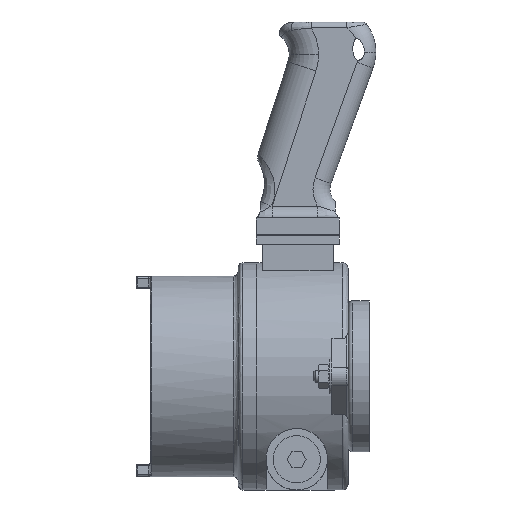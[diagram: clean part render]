
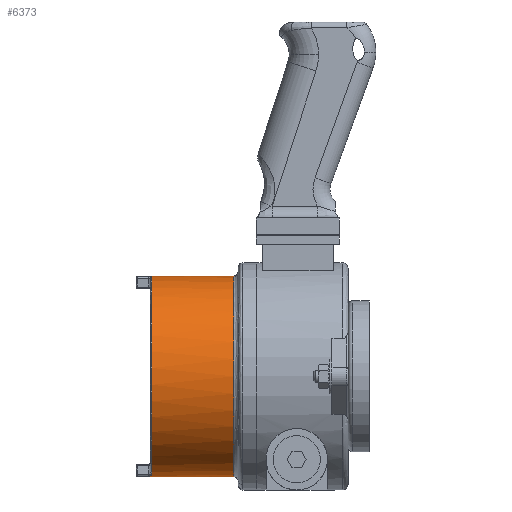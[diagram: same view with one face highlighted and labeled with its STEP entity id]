
A CAD part, left-side view. The second image highlights one B-rep face of the part: STEP entity #6373.
In plain terms, the highlighted cylindrical face has radius 53.975 mm (diameter 107.95 mm), a partial arc.
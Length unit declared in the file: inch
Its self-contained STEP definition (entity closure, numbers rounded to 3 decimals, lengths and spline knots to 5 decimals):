
#8 = CARTESIAN_POINT ( 'NONE',  ( 0., 4.1575, 0. ) ) ;
#29 = CARTESIAN_POINT ( 'NONE',  ( -0.3038, 4.1575, 2.10319 ) ) ;
#41 = VERTEX_POINT ( 'NONE', #465 ) ;
#339 = ORIENTED_EDGE ( 'NONE', *, *, #1502, .T. ) ;
#340 = DIRECTION ( 'NONE',  ( 0., -1., 0. ) ) ;
#343 = CARTESIAN_POINT ( 'NONE',  ( 0., 1.9375, -2.125 ) ) ;
#458 = EDGE_LOOP ( 'NONE', ( #16596, #5654, #5050, #13829, #5868, #8903, #339, #16389, #7605, #9879 ) ) ;
#465 = CARTESIAN_POINT ( 'NONE',  ( 0., 2.425, -2.125 ) ) ;
#1070 = CARTESIAN_POINT ( 'NONE',  ( 0., 2.425, 2.125 ) ) ;
#1231 = VERTEX_POINT ( 'NONE', #10548 ) ;
#1373 = CARTESIAN_POINT ( 'NONE',  ( -0.25136, 4.20947, 2.11008 ) ) ;
#1402 = VERTEX_POINT ( 'NONE', #3722 ) ;
#1404 = DIRECTION ( 'NONE',  ( 0., 0., -1. ) ) ;
#1502 = EDGE_CURVE ( 'NONE', #3231, #1231, #4377, .T. ) ;
#1732 = LINE ( 'NONE', #343, #11992 ) ;
#2359 = VERTEX_POINT ( 'NONE', #3473 ) ;
#2534 = FACE_OUTER_BOUND ( 'NONE', #458, .T. ) ;
#3231 = VERTEX_POINT ( 'NONE', #15189 ) ;
#3422 = CARTESIAN_POINT ( 'NONE',  ( -0.28145, 4.16501, -2.10629 ) ) ;
#3473 = CARTESIAN_POINT ( 'NONE',  ( -0.25135, 4.4575, 2.11008 ) ) ;
#3538 = EDGE_CURVE ( 'NONE', #1231, #17500, #16803, .T. ) ;
#3722 = CARTESIAN_POINT ( 'NONE',  ( -0.31176, 4.1575, -2.10201 ) ) ;
#3936 = AXIS2_PLACEMENT_3D ( 'NONE', #9090, #13306, #4980 ) ;
#3958 = DIRECTION ( 'NONE',  ( 0., 1., 0. ) ) ;
#3972 = EDGE_CURVE ( 'NONE', #2359, #8155, #5458, .T. ) ;
#4029 = DIRECTION ( 'NONE',  ( 0., 1., 0. ) ) ;
#4377 = LINE ( 'NONE', #13886, #17937 ) ;
#4856 = CARTESIAN_POINT ( 'NONE',  ( -0.26355, 4.1805, -2.1086 ) ) ;
#4980 = DIRECTION ( 'NONE',  ( 0., 0., -1. ) ) ;
#5037 = AXIS2_PLACEMENT_3D ( 'NONE', #8, #9754, #1404 ) ;
#5050 = ORIENTED_EDGE ( 'NONE', *, *, #3972, .T. ) ;
#5276 = VECTOR ( 'NONE', #13878, 39.37008 ) ;
#5458 = LINE ( 'NONE', #12375, #12832 ) ;
#5607 = CARTESIAN_POINT ( 'NONE',  ( -0.25912, 4.18703, 2.10915 ) ) ;
#5654 = ORIENTED_EDGE ( 'NONE', *, *, #15395, .T. ) ;
#5684 = LINE ( 'NONE', #12481, #5276 ) ;
#5731 = VERTEX_POINT ( 'NONE', #1070 ) ;
#5868 = ORIENTED_EDGE ( 'NONE', *, *, #10109, .T. ) ;
#6259 = CARTESIAN_POINT ( 'NONE',  ( -0.25292, 4.20173, -2.1099 ) ) ;
#6373 = ADVANCED_FACE ( 'NONE', ( #2534 ), #9066, .T. ) ;
#6517 = CIRCLE ( 'NONE', #14191, 2.125 ) ;
#6984 = CARTESIAN_POINT ( 'NONE',  ( -0.27488, 4.16934, 2.10715 ) ) ;
#7565 = EDGE_CURVE ( 'NONE', #41, #5731, #16538, .T. ) ;
#7605 = ORIENTED_EDGE ( 'NONE', *, *, #13042, .T. ) ;
#7625 = CARTESIAN_POINT ( 'NONE',  ( -0.25135, 4.2175, -2.11008 ) ) ;
#7687 = CARTESIAN_POINT ( 'NONE',  ( 0., 4.4575, 0. ) ) ;
#8155 = VERTEX_POINT ( 'NONE', #13962 ) ;
#8339 = VERTEX_POINT ( 'NONE', #17223 ) ;
#8365 = CARTESIAN_POINT ( 'NONE',  ( -0.29614, 4.15901, 2.10428 ) ) ;
#8689 = CARTESIAN_POINT ( 'NONE',  ( 0., 4.4575, 0. ) ) ;
#8903 = ORIENTED_EDGE ( 'NONE', *, *, #11251, .T. ) ;
#8971 = CARTESIAN_POINT ( 'NONE',  ( -0.31176, 4.1575, -2.10201 ) ) ;
#9066 = CYLINDRICAL_SURFACE ( 'NONE', #3936, 2.125 ) ;
#9090 = CARTESIAN_POINT ( 'NONE',  ( 0., 1.9375, 0. ) ) ;
#9101 = DIRECTION ( 'NONE',  ( 0., 0., -1. ) ) ;
#9754 = DIRECTION ( 'NONE',  ( 0., -1., 0. ) ) ;
#9775 = CARTESIAN_POINT ( 'NONE',  ( -0.31176, 4.1575, 2.10201 ) ) ;
#9879 = ORIENTED_EDGE ( 'NONE', *, *, #7565, .T. ) ;
#10077 = DIRECTION ( 'NONE',  ( 0., 0., -1. ) ) ;
#10084 = DIRECTION ( 'NONE',  ( 0., -1., 0. ) ) ;
#10109 = EDGE_CURVE ( 'NONE', #8339, #1402, #17326, .T. ) ;
#10143 = CARTESIAN_POINT ( 'NONE',  ( 0., 4.4575, 2.125 ) ) ;
#10548 = CARTESIAN_POINT ( 'NONE',  ( -0.25135, 4.4575, -2.11008 ) ) ;
#11251 = EDGE_CURVE ( 'NONE', #1402, #3231, #11372, .T. ) ;
#11372 = B_SPLINE_CURVE_WITH_KNOTS ( 'NONE', 3,
 ( #8971, #17355, #11756, #3422, #13180, #4856, #14608, #6259, #16007, #7625 ),
 .UNSPECIFIED., .F., .F.,
 ( 4, 2, 2, 2, 4 ),
 ( 0., 0.25, 0.5, 0.75, 1. ),
 .UNSPECIFIED. ) ;
#11688 = VERTEX_POINT ( 'NONE', #10143 ) ;
#11756 = CARTESIAN_POINT ( 'NONE',  ( -0.2962, 4.15899, -2.10427 ) ) ;
#11992 = VECTOR ( 'NONE', #10084, 39.37008 ) ;
#12288 = CARTESIAN_POINT ( 'NONE',  ( 0., 2.425, 0. ) ) ;
#12335 = AXIS2_PLACEMENT_3D ( 'NONE', #7687, #17485, #9101 ) ;
#12375 = CARTESIAN_POINT ( 'NONE',  ( -0.25135, 1.9375, 2.11008 ) ) ;
#12481 = CARTESIAN_POINT ( 'NONE',  ( 0., 1.9375, 2.125 ) ) ;
#12832 = VECTOR ( 'NONE', #16664, 39.37008 ) ;
#13042 = EDGE_CURVE ( 'NONE', #17500, #41, #1732, .T. ) ;
#13180 = CARTESIAN_POINT ( 'NONE',  ( -0.27495, 4.16928, -2.10715 ) ) ;
#13306 = DIRECTION ( 'NONE',  ( 0., -1., 0. ) ) ;
#13350 = EDGE_CURVE ( 'NONE', #11688, #5731, #5684, .T. ) ;
#13353 = EDGE_CURVE ( 'NONE', #8155, #8339, #17384, .T. ) ;
#13704 = DIRECTION ( 'NONE',  ( 0., 0., -1. ) ) ;
#13829 = ORIENTED_EDGE ( 'NONE', *, *, #13353, .T. ) ;
#13878 = DIRECTION ( 'NONE',  ( 0., -1., 0. ) ) ;
#13886 = CARTESIAN_POINT ( 'NONE',  ( -0.25135, 1.9375, -2.11008 ) ) ;
#13934 = CARTESIAN_POINT ( 'NONE',  ( -0.25293, 4.20174, 2.1099 ) ) ;
#13962 = CARTESIAN_POINT ( 'NONE',  ( -0.25135, 4.2175, 2.11008 ) ) ;
#14191 = AXIS2_PLACEMENT_3D ( 'NONE', #8689, #340, #10077 ) ;
#14608 = CARTESIAN_POINT ( 'NONE',  ( -0.25916, 4.18694, -2.10914 ) ) ;
#15189 = CARTESIAN_POINT ( 'NONE',  ( -0.25135, 4.2175, -2.11008 ) ) ;
#15371 = CARTESIAN_POINT ( 'NONE',  ( -0.26355, 4.1805, 2.1086 ) ) ;
#15395 = EDGE_CURVE ( 'NONE', #11688, #2359, #6517, .T. ) ;
#16007 = CARTESIAN_POINT ( 'NONE',  ( -0.25136, 4.20945, -2.11008 ) ) ;
#16389 = ORIENTED_EDGE ( 'NONE', *, *, #3538, .T. ) ;
#16538 = CIRCLE ( 'NONE', #16911, 2.125 ) ;
#16596 = ORIENTED_EDGE ( 'NONE', *, *, #13350, .F. ) ;
#16664 = DIRECTION ( 'NONE',  ( 0., -1., 0. ) ) ;
#16768 = CARTESIAN_POINT ( 'NONE',  ( -0.28141, 4.16503, 2.1063 ) ) ;
#16803 = CIRCLE ( 'NONE', #12335, 2.125 ) ;
#16911 = AXIS2_PLACEMENT_3D ( 'NONE', #12288, #3958, #13704 ) ;
#16914 = CARTESIAN_POINT ( 'NONE',  ( 0., 4.4575, -2.125 ) ) ;
#17223 = CARTESIAN_POINT ( 'NONE',  ( -0.31176, 4.1575, 2.10201 ) ) ;
#17326 = CIRCLE ( 'NONE', #5037, 2.125 ) ;
#17355 = CARTESIAN_POINT ( 'NONE',  ( -0.30382, 4.1575, -2.10318 ) ) ;
#17384 = B_SPLINE_CURVE_WITH_KNOTS ( 'NONE', 3,
 ( #18113, #1373, #13934, #5607, #15371, #6984, #16768, #8365, #29, #9775 ),
 .UNSPECIFIED., .F., .F.,
 ( 4, 2, 2, 2, 4 ),
 ( 0., 0.25, 0.5, 0.75, 1. ),
 .UNSPECIFIED. ) ;
#17485 = DIRECTION ( 'NONE',  ( 0., -1., 0. ) ) ;
#17500 = VERTEX_POINT ( 'NONE', #16914 ) ;
#17937 = VECTOR ( 'NONE', #4029, 39.37008 ) ;
#18113 = CARTESIAN_POINT ( 'NONE',  ( -0.25135, 4.2175, 2.11008 ) ) ;
